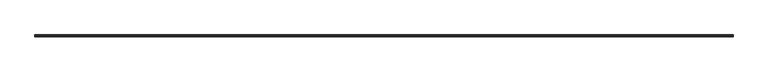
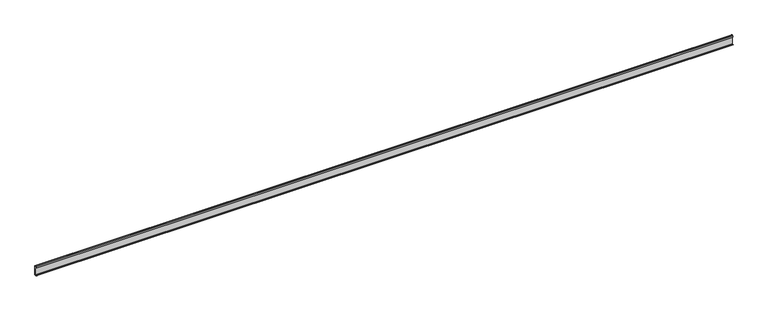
"""IFC4 building model written with IfcOpenShell, lengths in millimetres: proxy geometry, Weiku - Montante - Capa de folha 02.3.02.406 : Weiku - Montante - Capa de folha 02.3.02.406."""

from ifc_helpers import new_model, si_unit, point, frame, frame_2d, origin, place, context, project, spatial, polyline, circle_curve, trimmed, segment, composite_curve, outline, extrude, source, transform, mapped, element, save


def generic_models_29b75516(model_context):
    return source(origin(), model_context, "Body", "SweptSolid", [
        extrude(outline(composite_curve([segment(polyline([(-4.6421508, 2.2715508), (-3.3866, 1.016), (-1.6933, 1.016), (-1.6933, 25.684), (-3.3063, 25.684), (-3.3063, 22.3396), (-4.28, 22.3396), (-4.28, 26.2)]), True, "CONTINUOUS"), segment(trimmed(circle_curve(frame_2d((-3.78, 26.2)), 0.5), [point((-4.28, 26.2))], [point((-3.78, 26.7))], False, "CARTESIAN"), True, "CONTINUOUS"), segment(polyline([(-3.78, 26.7), (-0.5, 26.7)]), True, "CONTINUOUS"), segment(trimmed(circle_curve(frame_2d((-0.5, 26.2)), 0.5), [point((-0.5, 26.7))], [point((0.0, 26.2))], False, "CARTESIAN"), True, "CONTINUOUS"), segment(polyline([(0.0, 26.2), (0.0, 0.5)]), True, "CONTINUOUS"), segment(trimmed(circle_curve(frame_2d((-0.5, 0.5)), 0.5), [point((0.0, 0.5))], [point((-0.5, 0.0))], False, "CARTESIAN"), True, "CONTINUOUS"), segment(polyline([(-0.5, 0.0), (-4.7576991, 0.0)]), True, "CONTINUOUS"), segment(trimmed(circle_curve(frame_2d((-4.7576991, 0.7)), 0.7), [point((-4.7576991, 0.0))], [point((-5.3603515, 1.056104))], False, "CARTESIAN"), True, "CONTINUOUS"), segment(polyline([(-5.3603515, 1.056104), (-4.6421508, 2.2715508)]), True, "CONTINUOUS")], self_intersect=False)), frame((-980.2, 0.0, 0.0), z_axis=(1.0, 0.0, 0.0), x_axis=(0.0, 1.0, 0.0)), (0.0, 0.0, 1.0), 1960.4),
    ])


if __name__ == "__main__":
    model = new_model("IFC4")
    model_context = context("Model", 3, world=origin())
    ifc_project = project(units=[si_unit("LENGTHUNIT", "METRE", prefix="MILLI")], contexts=[model_context])
    site = spatial("IfcSite", under=ifc_project)
    building = spatial("IfcBuilding", under=site)
    placement = place(None, origin())
    generic_models_shape = generic_models_29b75516(model_context)
    element("IfcBuildingElementProxy", 1, Name="Weiku - Montante - Capa de folha 02.3.02.406 : Weiku - Montante - Capa de folha 02.3.02.406", ObjectType="Weiku - Montante - Capa de folha 02.3.02.406 : Weiku - Montante - Capa de folha 02.3.02.406", at=placement, inside=building, context=model_context, shape_type="MappedRepresentation", body=[
        mapped(generic_models_shape, transform((0.0, 0.0, 0.0), x_axis=(1.0, 0.0, 0.0), y_axis=(0.0, 1.0, 0.0), z_axis=(0.0, 0.0, 1.0))),
    ])
    save(model, "model.ifc")
